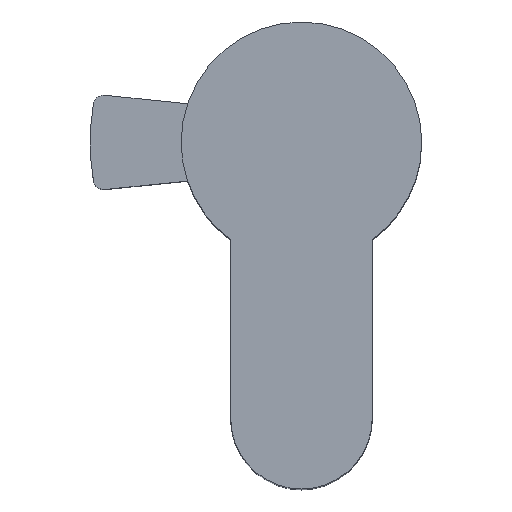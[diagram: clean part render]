
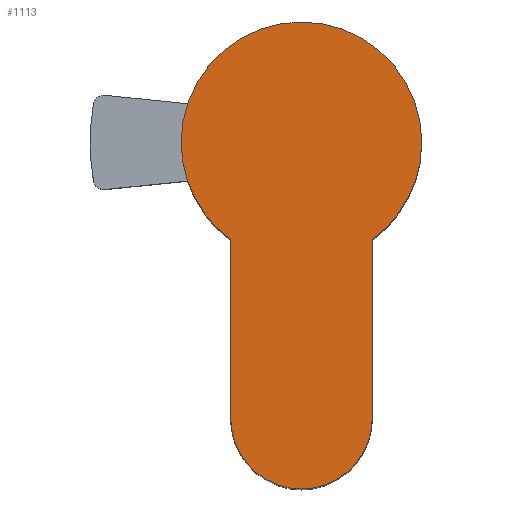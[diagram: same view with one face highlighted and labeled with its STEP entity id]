
A CAD part, top view. The second image highlights one B-rep face of the part: STEP entity #1113.
In plain terms, the highlighted planar face has unit normal (0, 0, 1).
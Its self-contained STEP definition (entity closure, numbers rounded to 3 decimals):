
#7 = ORIENTED_EDGE ( 'NONE', *, *, #97, .T. ) ;
#16 = EDGE_CURVE ( 'NONE', #704, #566, #306, .T. ) ;
#18 = VERTEX_POINT ( 'NONE', #161 ) ;
#47 = DIRECTION ( 'NONE',  ( 1., 0., 0. ) ) ;
#51 = CIRCLE ( 'NONE', #1343, 5. ) ;
#56 = DIRECTION ( 'NONE',  ( 0., 0., 1. ) ) ;
#73 = VERTEX_POINT ( 'NONE', #209 ) ;
#87 = CARTESIAN_POINT ( 'NONE',  ( 0., 0., 40. ) ) ;
#95 = PLANE ( 'NONE',  #710 ) ;
#97 = EDGE_CURVE ( 'NONE', #566, #18, #201, .T. ) ;
#145 = ORIENTED_EDGE ( 'NONE', *, *, #16, .T. ) ;
#161 = CARTESIAN_POINT ( 'NONE',  ( -5., -6.874, 40. ) ) ;
#163 = ORIENTED_EDGE ( 'NONE', *, *, #337, .T. ) ;
#187 = CARTESIAN_POINT ( 'NONE',  ( 0., 0., 40. ) ) ;
#192 = DIRECTION ( 'NONE',  ( 0., 0., 1. ) ) ;
#201 = CIRCLE ( 'NONE', #1851, 8.5 ) ;
#203 = DIRECTION ( 'NONE',  ( 1., 0., 0. ) ) ;
#209 = CARTESIAN_POINT ( 'NONE',  ( 5., -6.874, 40. ) ) ;
#220 = ORIENTED_EDGE ( 'NONE', *, *, #686, .T. ) ;
#306 = CIRCLE ( 'NONE', #1902, 8.5 ) ;
#315 = CARTESIAN_POINT ( 'NONE',  ( 0., 0., 40. ) ) ;
#317 = DIRECTION ( 'NONE',  ( 0., 0., 1. ) ) ;
#321 = DIRECTION ( 'NONE',  ( 1., 0., 0. ) ) ;
#337 = EDGE_CURVE ( 'NONE', #18, #809, #1541, .T. ) ;
#353 = DIRECTION ( 'NONE',  ( 0., -1., 0. ) ) ;
#566 = VERTEX_POINT ( 'NONE', #972 ) ;
#686 = EDGE_CURVE ( 'NONE', #809, #1736, #51, .T. ) ;
#704 = VERTEX_POINT ( 'NONE', #1642 ) ;
#710 = AXIS2_PLACEMENT_3D ( 'NONE', #87, #56, #47 ) ;
#760 = DIRECTION ( 'NONE',  ( 0., 1., 0. ) ) ;
#766 = CARTESIAN_POINT ( 'NONE',  ( 5., -19.5, 40. ) ) ;
#809 = VERTEX_POINT ( 'NONE', #1019 ) ;
#841 = EDGE_CURVE ( 'NONE', #1736, #73, #1493, .T. ) ;
#952 = CARTESIAN_POINT ( 'NONE',  ( -5., -6.874, 40. ) ) ;
#958 = VECTOR ( 'NONE', #760, 1000. ) ;
#972 = CARTESIAN_POINT ( 'NONE',  ( -8.5, 0., 40. ) ) ;
#1019 = CARTESIAN_POINT ( 'NONE',  ( -5., -19.5, 40. ) ) ;
#1067 = ORIENTED_EDGE ( 'NONE', *, *, #1643, .T. ) ;
#1109 = CIRCLE ( 'NONE', #1291, 8.5 ) ;
#1113 = ADVANCED_FACE ( 'NONE', ( #1941 ), #95, .T. ) ;
#1224 = CARTESIAN_POINT ( 'NONE',  ( 5., -19.5, 40. ) ) ;
#1291 = AXIS2_PLACEMENT_3D ( 'NONE', #1338, #1336, #1333 ) ;
#1333 = DIRECTION ( 'NONE',  ( 1., 0., 0. ) ) ;
#1336 = DIRECTION ( 'NONE',  ( 0., 0., 1. ) ) ;
#1338 = CARTESIAN_POINT ( 'NONE',  ( 0., 0., 40. ) ) ;
#1343 = AXIS2_PLACEMENT_3D ( 'NONE', #1907, #1638, #1586 ) ;
#1438 = VECTOR ( 'NONE', #353, 1000. ) ;
#1493 = LINE ( 'NONE', #766, #958 ) ;
#1541 = LINE ( 'NONE', #952, #1438 ) ;
#1558 = EDGE_LOOP ( 'NONE', ( #1067, #145, #7, #163, #220, #1870 ) ) ;
#1586 = DIRECTION ( 'NONE',  ( 1., 0., 0. ) ) ;
#1638 = DIRECTION ( 'NONE',  ( 0., 0., 1. ) ) ;
#1642 = CARTESIAN_POINT ( 'NONE',  ( 8.5, 0., 40. ) ) ;
#1643 = EDGE_CURVE ( 'NONE', #73, #704, #1109, .T. ) ;
#1736 = VERTEX_POINT ( 'NONE', #1224 ) ;
#1851 = AXIS2_PLACEMENT_3D ( 'NONE', #315, #317, #321 ) ;
#1870 = ORIENTED_EDGE ( 'NONE', *, *, #841, .T. ) ;
#1902 = AXIS2_PLACEMENT_3D ( 'NONE', #187, #192, #203 ) ;
#1907 = CARTESIAN_POINT ( 'NONE',  ( 0., -19.5, 40. ) ) ;
#1941 = FACE_OUTER_BOUND ( 'NONE', #1558, .T. ) ;
